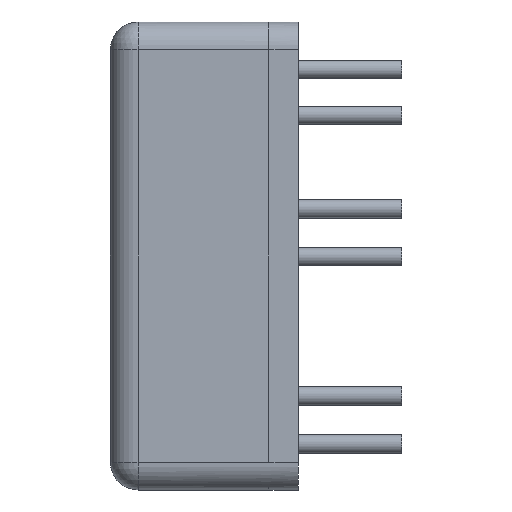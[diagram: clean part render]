
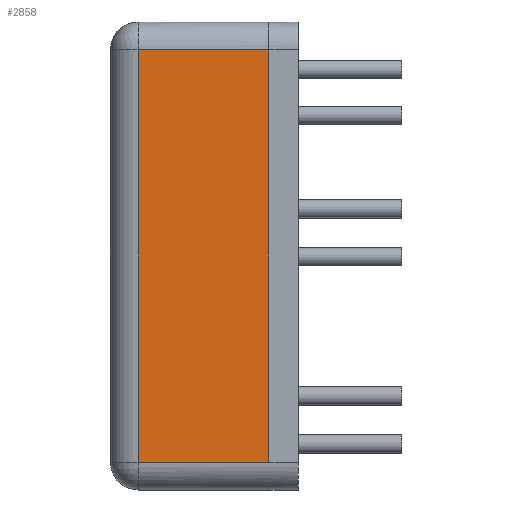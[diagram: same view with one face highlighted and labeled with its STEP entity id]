
A CAD part, left-side view. The second image highlights one B-rep face of the part: STEP entity #2858.
In plain terms, the highlighted planar face has unit normal (-1, 0, 0).
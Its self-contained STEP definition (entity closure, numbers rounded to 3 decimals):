
#238 = DIRECTION ( 'NONE',  ( 0., 1., 0. ) ) ;
#1411 = CARTESIAN_POINT ( 'NONE',  ( -25.4, -0.001, 11.2 ) ) ;
#1472 = FACE_OUTER_BOUND ( 'NONE', #3372, .T. ) ;
#1767 = VERTEX_POINT ( 'NONE', #7198 ) ;
#2173 = CARTESIAN_POINT ( 'NONE',  ( -25.4, 7.1, 11.2 ) ) ;
#2382 = VECTOR ( 'NONE', #6280, 1000. ) ;
#2858 = ADVANCED_FACE ( 'NONE', ( #1472 ), #4180, .F. ) ;
#3205 = CARTESIAN_POINT ( 'NONE',  ( -25.4, 8.6, -11.2 ) ) ;
#3372 = EDGE_LOOP ( 'NONE', ( #8608, #7385, #11409, #4856 ) ) ;
#3897 = VECTOR ( 'NONE', #6725, 1000. ) ;
#4078 = LINE ( 'NONE', #3205, #3897 ) ;
#4180 = PLANE ( 'NONE',  #7841 ) ;
#4500 = VERTEX_POINT ( 'NONE', #4818 ) ;
#4818 = CARTESIAN_POINT ( 'NONE',  ( -25.4, 7.1, -11.2 ) ) ;
#4856 = ORIENTED_EDGE ( 'NONE', *, *, #6263, .T. ) ;
#4993 = CARTESIAN_POINT ( 'NONE',  ( -25.4, 8.6, -12.7 ) ) ;
#6051 = VERTEX_POINT ( 'NONE', #1411 ) ;
#6096 = CARTESIAN_POINT ( 'NONE',  ( -25.4, -0.001, -12.7 ) ) ;
#6263 = EDGE_CURVE ( 'NONE', #10022, #4500, #9826, .T. ) ;
#6280 = DIRECTION ( 'NONE',  ( 0., 0., -1. ) ) ;
#6352 = LINE ( 'NONE', #9091, #8080 ) ;
#6517 = CARTESIAN_POINT ( 'NONE',  ( -25.4, 7.1, -12.7 ) ) ;
#6725 = DIRECTION ( 'NONE',  ( 0., -1., 0. ) ) ;
#6969 = LINE ( 'NONE', #6096, #7953 ) ;
#7198 = CARTESIAN_POINT ( 'NONE',  ( -25.4, -0.001, -11.2 ) ) ;
#7385 = ORIENTED_EDGE ( 'NONE', *, *, #9679, .F. ) ;
#7841 = AXIS2_PLACEMENT_3D ( 'NONE', #4993, #8688, #8528 ) ;
#7953 = VECTOR ( 'NONE', #10504, 1000. ) ;
#8080 = VECTOR ( 'NONE', #238, 1000. ) ;
#8528 = DIRECTION ( 'NONE',  ( 0., 0., -1. ) ) ;
#8608 = ORIENTED_EDGE ( 'NONE', *, *, #10109, .T. ) ;
#8688 = DIRECTION ( 'NONE',  ( 1., 0., 0. ) ) ;
#9091 = CARTESIAN_POINT ( 'NONE',  ( -25.4, 8.6, 11.2 ) ) ;
#9679 = EDGE_CURVE ( 'NONE', #6051, #1767, #6969, .T. ) ;
#9826 = LINE ( 'NONE', #6517, #2382 ) ;
#10022 = VERTEX_POINT ( 'NONE', #2173 ) ;
#10109 = EDGE_CURVE ( 'NONE', #4500, #1767, #4078, .T. ) ;
#10504 = DIRECTION ( 'NONE',  ( 0., 0., -1. ) ) ;
#11312 = EDGE_CURVE ( 'NONE', #6051, #10022, #6352, .T. ) ;
#11409 = ORIENTED_EDGE ( 'NONE', *, *, #11312, .T. ) ;
